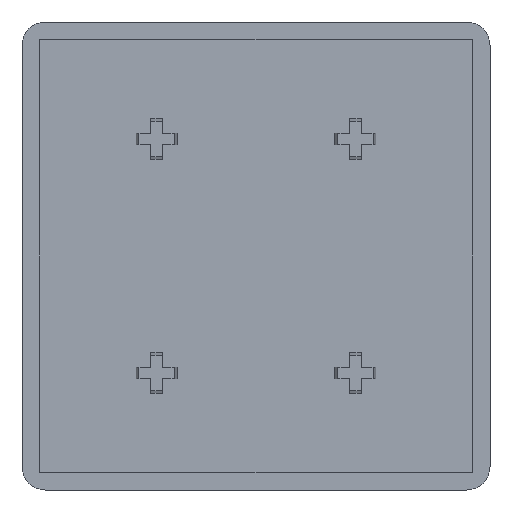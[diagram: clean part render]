
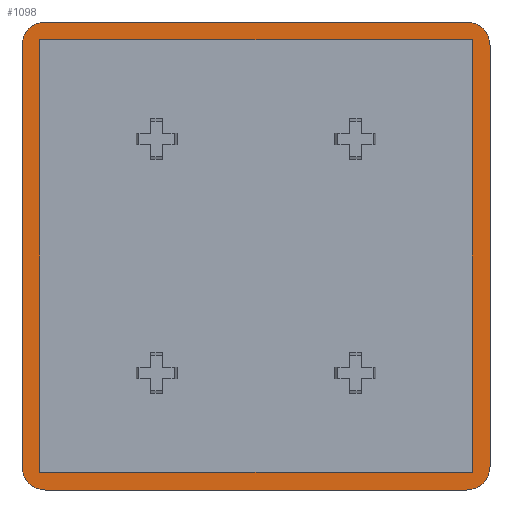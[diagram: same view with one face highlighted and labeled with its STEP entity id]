
A CAD part, front view. The second image highlights one B-rep face of the part: STEP entity #1098.
In plain terms, the highlighted planar face has unit normal (0, -1, 0).
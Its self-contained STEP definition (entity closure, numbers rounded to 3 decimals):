
#27 = EDGE_CURVE ( 'NONE', #265, #1856, #960, .T. ) ;
#29 = FACE_OUTER_BOUND ( 'NONE', #895, .T. ) ;
#41 = ORIENTED_EDGE ( 'NONE', *, *, #222, .F. ) ;
#57 = VERTEX_POINT ( 'NONE', #2516 ) ;
#91 = CARTESIAN_POINT ( 'NONE',  ( 3., 0., -77. ) ) ;
#94 = EDGE_CURVE ( 'NONE', #265, #2461, #688, .T. ) ;
#95 = DIRECTION ( 'NONE',  ( 0., 0., -1. ) ) ;
#186 = ORIENTED_EDGE ( 'NONE', *, *, #620, .F. ) ;
#222 = EDGE_CURVE ( 'NONE', #57, #830, #1353, .T. ) ;
#250 = CIRCLE ( 'NONE', #1869, 4. ) ;
#265 = VERTEX_POINT ( 'NONE', #1204 ) ;
#281 = ORIENTED_EDGE ( 'NONE', *, *, #2514, .F. ) ;
#328 = LINE ( 'NONE', #587, #2131 ) ;
#333 = EDGE_CURVE ( 'NONE', #2037, #2461, #1430, .T. ) ;
#368 = CARTESIAN_POINT ( 'NONE',  ( 3., 0., -77. ) ) ;
#370 = EDGE_CURVE ( 'NONE', #1563, #2759, #328, .T. ) ;
#381 = CIRCLE ( 'NONE', #1116, 4. ) ;
#408 = CARTESIAN_POINT ( 'NONE',  ( 77., 0., -3. ) ) ;
#411 = CARTESIAN_POINT ( 'NONE',  ( 3., 0., -3. ) ) ;
#415 = DIRECTION ( 'NONE',  ( 0., 0., -1. ) ) ;
#504 = LINE ( 'NONE', #2088, #888 ) ;
#527 = ORIENTED_EDGE ( 'NONE', *, *, #94, .T. ) ;
#574 = LINE ( 'NONE', #2837, #756 ) ;
#587 = CARTESIAN_POINT ( 'NONE',  ( 77., 0., -3. ) ) ;
#620 = EDGE_CURVE ( 'NONE', #1844, #1644, #1705, .T. ) ;
#652 = CARTESIAN_POINT ( 'NONE',  ( 4., 0., -4. ) ) ;
#688 = CIRCLE ( 'NONE', #1240, 4. ) ;
#749 = DIRECTION ( 'NONE',  ( 1., 0., 0. ) ) ;
#756 = VECTOR ( 'NONE', #2130, 1000. ) ;
#830 = VERTEX_POINT ( 'NONE', #2089 ) ;
#861 = CARTESIAN_POINT ( 'NONE',  ( 76., 0., 0. ) ) ;
#867 = VECTOR ( 'NONE', #2771, 1000. ) ;
#888 = VECTOR ( 'NONE', #95, 1000. ) ;
#895 = EDGE_LOOP ( 'NONE', ( #41, #2688, #281, #2330, #1529, #527, #1808, #2773 ) ) ;
#900 = DIRECTION ( 'NONE',  ( 0., 0., -1. ) ) ;
#960 = LINE ( 'NONE', #1649, #1707 ) ;
#1022 = EDGE_CURVE ( 'NONE', #1644, #1563, #1746, .T. ) ;
#1050 = DIRECTION ( 'NONE',  ( 0., 0., -1. ) ) ;
#1065 = VECTOR ( 'NONE', #2638, 1000. ) ;
#1097 = CARTESIAN_POINT ( 'NONE',  ( 4., 0., -76. ) ) ;
#1098 = ADVANCED_FACE ( 'NONE', ( #2258, #29 ), #2671, .T. ) ;
#1116 = AXIS2_PLACEMENT_3D ( 'NONE', #1309, #2468, #2455 ) ;
#1128 = EDGE_CURVE ( 'NONE', #2037, #830, #2058, .T. ) ;
#1142 = CARTESIAN_POINT ( 'NONE',  ( 0., 0., -80. ) ) ;
#1167 = VERTEX_POINT ( 'NONE', #2240 ) ;
#1176 = CARTESIAN_POINT ( 'NONE',  ( 0., 0., -4. ) ) ;
#1183 = VERTEX_POINT ( 'NONE', #2062 ) ;
#1204 = CARTESIAN_POINT ( 'NONE',  ( 4., 0., 0. ) ) ;
#1235 = DIRECTION ( 'NONE',  ( 0., 0., 1. ) ) ;
#1240 = AXIS2_PLACEMENT_3D ( 'NONE', #652, #1289, #1050 ) ;
#1289 = DIRECTION ( 'NONE',  ( 0., -1., 0. ) ) ;
#1296 = ORIENTED_EDGE ( 'NONE', *, *, #2562, .F. ) ;
#1309 = CARTESIAN_POINT ( 'NONE',  ( 76., 0., -76. ) ) ;
#1315 = DIRECTION ( 'NONE',  ( 0., 0., -1. ) ) ;
#1353 = LINE ( 'NONE', #2254, #867 ) ;
#1430 = LINE ( 'NONE', #2119, #2179 ) ;
#1473 = DIRECTION ( 'NONE',  ( 0., 0., 1. ) ) ;
#1479 = ORIENTED_EDGE ( 'NONE', *, *, #1022, .F. ) ;
#1525 = CARTESIAN_POINT ( 'NONE',  ( 77., 0., -77. ) ) ;
#1529 = ORIENTED_EDGE ( 'NONE', *, *, #27, .F. ) ;
#1563 = VERTEX_POINT ( 'NONE', #1525 ) ;
#1644 = VERTEX_POINT ( 'NONE', #91 ) ;
#1649 = CARTESIAN_POINT ( 'NONE',  ( 0., 0., 0. ) ) ;
#1705 = LINE ( 'NONE', #411, #1821 ) ;
#1707 = VECTOR ( 'NONE', #749, 1000. ) ;
#1746 = LINE ( 'NONE', #368, #1065 ) ;
#1796 = DIRECTION ( 'NONE',  ( 0., -1., 0. ) ) ;
#1808 = ORIENTED_EDGE ( 'NONE', *, *, #333, .F. ) ;
#1821 = VECTOR ( 'NONE', #1315, 1000. ) ;
#1827 = DIRECTION ( 'NONE',  ( 0., -1., 0. ) ) ;
#1833 = CARTESIAN_POINT ( 'NONE',  ( 0., 0., -76. ) ) ;
#1844 = VERTEX_POINT ( 'NONE', #1976 ) ;
#1856 = VERTEX_POINT ( 'NONE', #861 ) ;
#1869 = AXIS2_PLACEMENT_3D ( 'NONE', #2233, #1990, #415 ) ;
#1931 = EDGE_CURVE ( 'NONE', #1167, #1856, #250, .T. ) ;
#1958 = AXIS2_PLACEMENT_3D ( 'NONE', #1097, #1827, #2470 ) ;
#1976 = CARTESIAN_POINT ( 'NONE',  ( 3., 0., -3. ) ) ;
#1990 = DIRECTION ( 'NONE',  ( 0., -1., 0. ) ) ;
#2010 = EDGE_LOOP ( 'NONE', ( #186, #1296, #2657, #1479 ) ) ;
#2037 = VERTEX_POINT ( 'NONE', #1833 ) ;
#2058 = CIRCLE ( 'NONE', #1958, 4. ) ;
#2062 = CARTESIAN_POINT ( 'NONE',  ( 80., 0., -76. ) ) ;
#2088 = CARTESIAN_POINT ( 'NONE',  ( 80., 0., 0. ) ) ;
#2089 = CARTESIAN_POINT ( 'NONE',  ( 4., 0., -80. ) ) ;
#2119 = CARTESIAN_POINT ( 'NONE',  ( 0., 0., 0. ) ) ;
#2130 = DIRECTION ( 'NONE',  ( -1., 0., 0. ) ) ;
#2131 = VECTOR ( 'NONE', #1473, 1000. ) ;
#2179 = VECTOR ( 'NONE', #1235, 1000. ) ;
#2200 = AXIS2_PLACEMENT_3D ( 'NONE', #1142, #1796, #900 ) ;
#2233 = CARTESIAN_POINT ( 'NONE',  ( 76., 0., -4. ) ) ;
#2240 = CARTESIAN_POINT ( 'NONE',  ( 80., 0., -4. ) ) ;
#2254 = CARTESIAN_POINT ( 'NONE',  ( 0., 0., -80. ) ) ;
#2258 = FACE_BOUND ( 'NONE', #2010, .T. ) ;
#2330 = ORIENTED_EDGE ( 'NONE', *, *, #1931, .T. ) ;
#2455 = DIRECTION ( 'NONE',  ( 0., 0., -1. ) ) ;
#2461 = VERTEX_POINT ( 'NONE', #1176 ) ;
#2468 = DIRECTION ( 'NONE',  ( 0., -1., 0. ) ) ;
#2470 = DIRECTION ( 'NONE',  ( 0., 0., -1. ) ) ;
#2514 = EDGE_CURVE ( 'NONE', #1167, #1183, #504, .T. ) ;
#2516 = CARTESIAN_POINT ( 'NONE',  ( 76., 0., -80. ) ) ;
#2562 = EDGE_CURVE ( 'NONE', #2759, #1844, #574, .T. ) ;
#2638 = DIRECTION ( 'NONE',  ( 1., 0., 0. ) ) ;
#2657 = ORIENTED_EDGE ( 'NONE', *, *, #370, .F. ) ;
#2671 = PLANE ( 'NONE',  #2200 ) ;
#2688 = ORIENTED_EDGE ( 'NONE', *, *, #2775, .T. ) ;
#2759 = VERTEX_POINT ( 'NONE', #408 ) ;
#2771 = DIRECTION ( 'NONE',  ( -1., 0., 0. ) ) ;
#2773 = ORIENTED_EDGE ( 'NONE', *, *, #1128, .T. ) ;
#2775 = EDGE_CURVE ( 'NONE', #57, #1183, #381, .T. ) ;
#2837 = CARTESIAN_POINT ( 'NONE',  ( 3., 0., -3. ) ) ;
